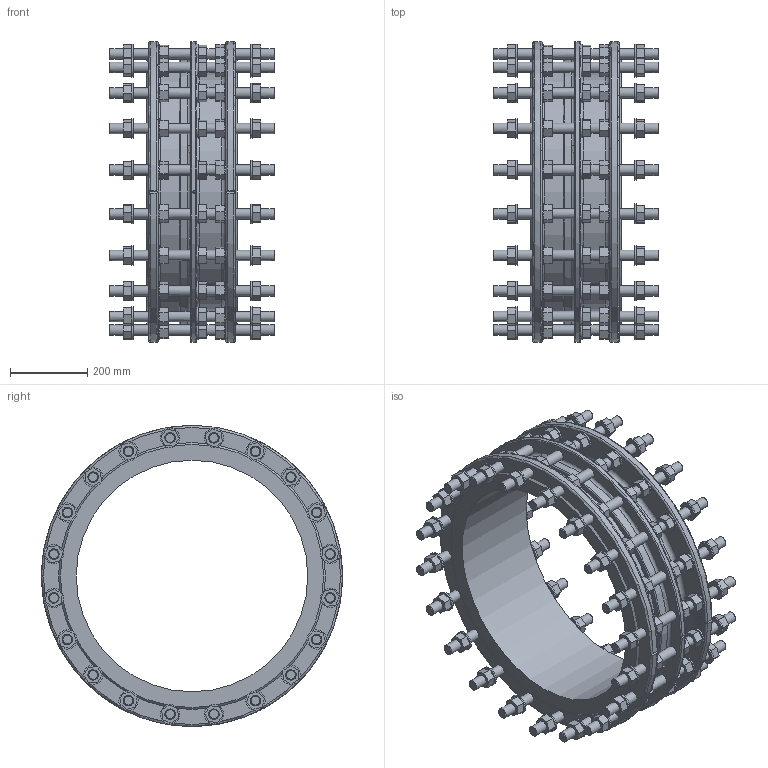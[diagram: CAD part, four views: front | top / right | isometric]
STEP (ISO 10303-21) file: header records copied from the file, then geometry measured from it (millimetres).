
FILE_DESCRIPTION (( 'STEP AP203' ), '1' );
FILE_NAME ('O_265_911_DN600_0XXXXX01_L=235_REV01.step', '2024-12-12T08:12:02', ( '' ), ( '' ), 'SwSTEP 2.0', 'SolidWorks 2022', '' );
FILE_SCHEMA (( 'CONFIG_CONTROL_DESIGN' ));
Length unit declared in the file: millimetre
Products named in the file (1): O_265_911_DN600_0XXXXX01_L=235_REV01
Bounding box: 430 x 779.98 x 780 mm (x, y, z)
Volume: 27520500.4 mm3; surface area: 2741731.4 mm2
Topology: 1 solids, 1 shells, 1287 faces, 3120 edges, 2046 vertices
Faces by surface type: plane 1000, cylinder 232, cone 43, torus 12
Full cylindrical faces by diameter (mm): 27 x120, 50 x100, 600 x1, 618 x2, 656 x1
Entity records: 35824 total; most frequent: CARTESIAN_POINT 6955, DIRECTION 5937, ORIENTED_EDGE 5374, EDGE_CURVE 2687, AXIS2_PLACEMENT_3D 2006, LINE 1925, VECTOR 1925, VERTEX_POINT 1888
